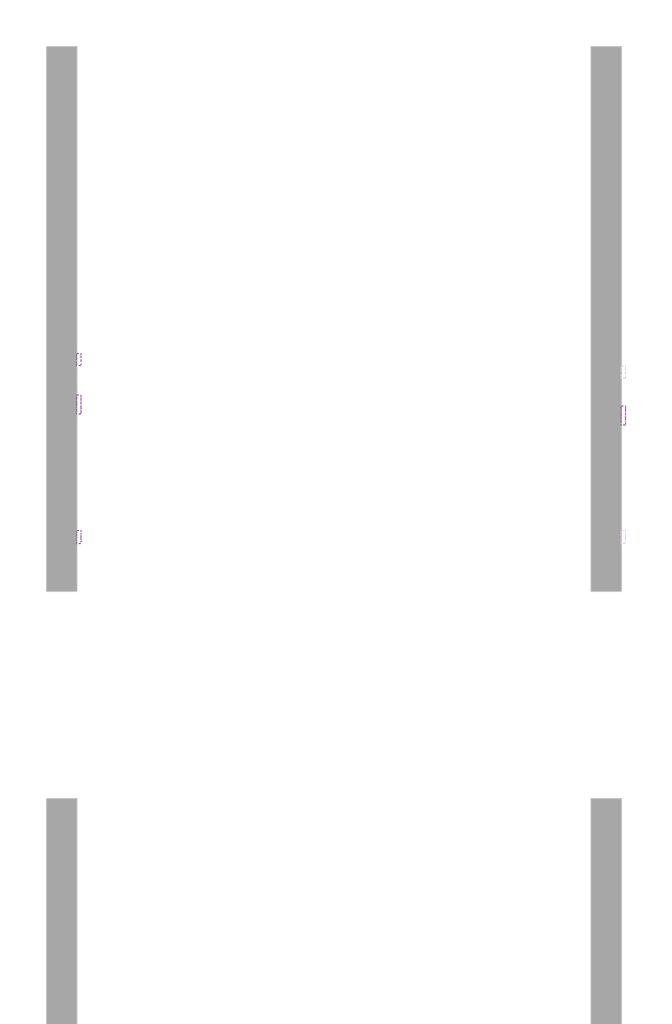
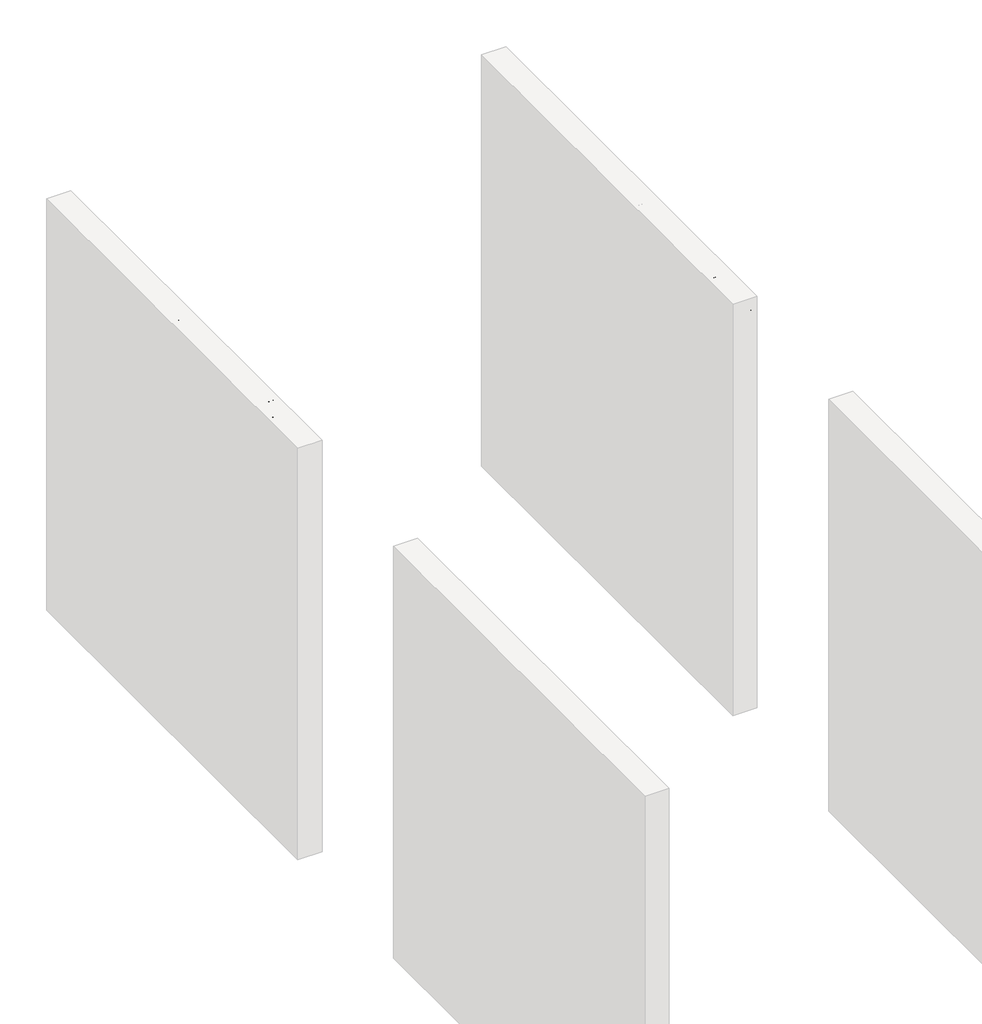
# One storey, part 12 of 17: 4 proxies.
"""IFC4 building model written with IfcOpenShell, lengths in millimetres."""

import ifcopenshell
import ifcopenshell.guid

model = None  # the IFC model being written
_history = None  # IfcOwnerHistory: only IFC2X3 demands one
_inside = {}  # id of a spatial element -> (the spatial element, [elements in it])
_under = {}  # id of a project, library or spatial element -> (it, [spatial elements below it])
_declared = {}  # id of a project -> (the project, [libraries it declares])
_typed = {}  # id of a type object -> (the type object, [elements of that type])
_made_of = {}  # id of a material, layer set ... -> (it, [elements and type objects made of it])


def new_model(schema):
    """Start an empty IFC model of exactly this schema.

    Asked for "IFC4X3", IfcOpenShell would pick the latest addendum, in which some entities
    have other attributes; the version numbers below select the first issue.
    IFC2X3 requires an IfcOwnerHistory on every rooted entity: one is made here for all.
    """
    global model, _history
    if schema == "IFC4X3":
        model = ifcopenshell.file(schema_version=(4, 3, 0, 0))
    else:
        model = ifcopenshell.file(schema=schema)
    _inside.clear()
    _under.clear()
    _declared.clear()
    _typed.clear()
    _made_of.clear()
    _history = None
    if model.schema == "IFC2X3":
        org = make("IfcOrganization", Name="unknown")
        user = make(
            "IfcPersonAndOrganization",
            ThePerson=make("IfcPerson", FamilyName="unknown"),
            TheOrganization=org,
        )
        app = make(
            "IfcApplication",
            ApplicationDeveloper=org,
            Version="unknown",
            ApplicationFullName="unknown",
            ApplicationIdentifier="unknown",
        )
        _history = make(
            "IfcOwnerHistory",
            OwningUser=user,
            OwningApplication=app,
            ChangeAction="ADDED",
            CreationDate=0,
        )
    return model


def make(cls, **values):
    """One entity of the class cls with the attributes given. An attribute that is None is left unset."""
    return model.create_entity(
        cls, **{name: value for name, value in values.items() if value is not None}
    )


def rooted(cls, **values):
    """An entity with a GlobalId (a new one), such as an element, a storey or a relation."""
    return make(cls, GlobalId=ifcopenshell.guid.new(), OwnerHistory=_history, **values)


def si_unit(unit_type, name, prefix=None):
    """IfcSIUnit, for example si_unit("LENGTHUNIT", "METRE", prefix="MILLI")."""
    return make("IfcSIUnit", UnitType=unit_type, Prefix=prefix, Name=name)


def assignment(units):
    """IfcUnitAssignment: the units of a project."""
    return None if units is None else make("IfcUnitAssignment", Units=units)


def point(xyz):
    """IfcCartesianPoint."""
    return None if xyz is None else make("IfcCartesianPoint", Coordinates=xyz)


def direction(xyz):
    """IfcDirection."""
    return None if xyz is None else make("IfcDirection", DirectionRatios=xyz)


def frame(location, z_axis=None, x_axis=None):
    """IfcAxis2Placement3D, a coordinate frame: its origin and axes. An axis left out is left unset."""
    return make(
        "IfcAxis2Placement3D",
        Location=point(location),
        Axis=direction(z_axis),
        RefDirection=direction(x_axis),
    )


def origin():
    """The frame at (0, 0, 0) with its axes left unset."""
    return frame((0.0, 0.0, 0.0))


def place(relative_to, where):
    """IfcLocalPlacement: puts the frame where relative to a parent placement (None: the world)."""
    return make(
        "IfcLocalPlacement", PlacementRelTo=relative_to, RelativePlacement=where
    )


def context(
    kind, dimensions, precision=None, world=None, true_north=None, identifier=None
):
    """IfcGeometricRepresentationContext, for example the 3D "Model" context."""
    return make(
        "IfcGeometricRepresentationContext",
        ContextIdentifier=identifier,
        ContextType=kind,
        CoordinateSpaceDimension=dimensions,
        Precision=precision,
        WorldCoordinateSystem=world,
        TrueNorth=true_north,
    )


def project(units=None, contexts=None):
    """IfcProject with its units and contexts."""
    return rooted(
        "IfcProject",
        Name="project",
        RepresentationContexts=contexts,
        UnitsInContext=assignment(units),
    )


def spatial(cls, under=None, at=None, **own):
    """A site, building, storey or space (cls), placed at a placement, below another one or the project."""
    s = rooted(cls, ObjectPlacement=at, **own)
    if under is not None:
        _under.setdefault(under.id(), (under, []))[1].append(s)
    return s


def polyline(points):
    """IfcPolyline through the points."""
    return make("IfcPolyline", Points=[point(p) for p in points])


def outline(outer, holes=None, kind="AREA"):
    """IfcArbitraryClosedProfileDef: a profile drawn as a closed curve; with holes, ...WithVoids."""
    if holes is None:
        return make("IfcArbitraryClosedProfileDef", ProfileType=kind, OuterCurve=outer)
    return make(
        "IfcArbitraryProfileDefWithVoids",
        ProfileType=kind,
        OuterCurve=outer,
        InnerCurves=holes,
    )


def extrude(swept, where, along, depth):
    """IfcExtrudedAreaSolid: the profile swept, set in the frame where, extruded along a direction by depth."""
    return make(
        "IfcExtrudedAreaSolid",
        SweptArea=swept,
        Position=where,
        ExtrudedDirection=direction(along),
        Depth=depth,
    )


def shape(context_of_items, identifier, shape_type, items):
    """IfcShapeRepresentation: the items that make up one representation, for example the "Body"."""
    return make(
        "IfcShapeRepresentation",
        ContextOfItems=context_of_items,
        RepresentationIdentifier=identifier,
        RepresentationType=shape_type,
        Items=items,
    )


def made_of(thing, what):
    """Note that an element or type object is made of a material, layer set ...; save() writes the relation."""
    if what is not None:
        _made_of.setdefault(what.id(), (what, []))[1].append(thing)
    return thing


def element(
    cls,
    number,
    at=None,
    inside=None,
    cuts=None,
    type_object=None,
    material=None,
    context=None,
    identifier="Body",
    shape_type=None,
    held_by="IfcProductDefinitionShape",
    body=None,
    shapes=None,
    **own,
):
    """One element of the class cls, such as IfcWall. Its Tag is "e" and its number.

    at: its placement. inside: the storey or other place that contains it. cuts: it is an
    opening in that element (IfcRelVoidsElement). A single representation is given by context,
    identifier, shape_type and body (its items); several are given by shapes. held_by: the class
    of the entity that holds the representations. save() writes the other relations.
    """
    e = rooted(cls, Tag="e%d" % number, ObjectPlacement=at, **own)
    if body is not None:
        shapes = [shape(context, identifier, shape_type, body)]
    if shapes is not None:
        e.Representation = make(held_by, Representations=shapes)
    if inside is not None:
        _inside.setdefault(inside.id(), (inside, []))[1].append(e)
    if cuts is not None:
        rooted(
            "IfcRelVoidsElement", RelatingBuildingElement=cuts, RelatedOpeningElement=e
        )
    if type_object is not None:
        _typed.setdefault(type_object.id(), (type_object, []))[1].append(e)
    return made_of(e, material)


def aggregate(whole, parts):
    """IfcRelAggregates: a whole, such as a stair, and the parts it consists of."""
    return rooted("IfcRelAggregates", RelatingObject=whole, RelatedObjects=parts)


def save(model, path):
    """Write the relations noted so far, then the file.

    IfcRelAggregates (storeys below a building ...), IfcRelContainedInSpatialStructure (elements
    in a storey), IfcRelDefinesByType, IfcRelAssociatesMaterial and IfcRelDeclares: one each for
    every whole, place, type object, material and project.
    """
    for whole, parts in _under.values():
        aggregate(whole, parts)
    for where, things in _inside.values():
        rooted(
            "IfcRelContainedInSpatialStructure",
            RelatedElements=things,
            RelatingStructure=where,
        )
    for kind, things in _typed.values():
        rooted("IfcRelDefinesByType", RelatedObjects=things, RelatingType=kind)
    for what, things in _made_of.values():
        rooted("IfcRelAssociatesMaterial", RelatedObjects=things, RelatingMaterial=what)
    for by, libraries in _declared.values():
        rooted("IfcRelDeclares", RelatingContext=by, RelatedDefinitions=libraries)
    model.write(path)


model = new_model("IFC4")

# Units and contexts
model_context = context("Model", 3, world=origin())
ifc_project = project(units=[si_unit("LENGTHUNIT", "METRE", prefix="MILLI")], contexts=[model_context])

# Site, building, storey
site = spatial("IfcSite", under=ifc_project)
building = spatial("IfcBuilding", under=site)
storey = spatial("IfcBuildingStorey", under=building, Name="PORTOBELLO - SHOWROOM", Elevation=0.0)

# Proxies
placement = place(None, origin())
element("IfcBuildingElementProxy", 1, Name="10mm Arial", ObjectType="10mm Arial", at=placement, inside=storey, context=model_context, shape_type="SweptSolid", body=[
    extrude(outline(polyline([(-13002.2794626, 9434.1996011), (-13002.2794626, 9421.6425623), (-13022.2794626, 9421.6425623), (-13022.2794626, 9434.1996011), (-13002.2794626, 9434.1996011)])), frame((0.0, 0.0, 2518.4745677), z_axis=(0.0, 0.0, 1.0), x_axis=(1.0, 0.0, 0.0)), (0.0, 0.0, 1.0), 100.4563101),
    extrude(outline(polyline([(9457.7440488, 2518.4745677), (9457.7440488, 2592.2471704), (9470.3010876, 2592.2471704), (9470.3010876, 2581.9464746), (9479.9028076, 2590.8492188), (9493.0116694, 2593.8168003), (9504.8697324, 2591.4255673), (9512.9631363, 2585.1470479), (9516.7277953, 2575.9132098), (9517.3899829, 2563.773104), (9517.3899829, 2518.4745677), (9504.8329442, 2518.4745677), (9504.8329442, 2562.0808468), (9503.3859417, 2573.1908831), (9498.2723819, 2579.0647323), (9489.6516805, 2581.2597615), (9476.027784, 2576.3301428), (9471.7327617, 2569.1871007), (9470.3010876, 2557.6172119), (9470.3010876, 2518.4745677), (9457.7440488, 2518.4745677)])), frame((-13022.2794626, 0.0, 0.0), z_axis=(1.0, 0.0, 0.0), x_axis=(0.0, 1.0, 0.0)), (0.0, 0.0, 1.0), 20.0),
    extrude(outline(polyline([(9580.1751768, 2518.4745677), (9580.1751768, 2530.3203679), (9571.8671751, 2520.2587953), (9560.3831254, 2516.9049378), (9544.8339798, 2521.7609802), (9533.8465709, 2535.3113003), (9529.9470217, 2555.2872926), (9533.5400025, 2575.2755477), (9544.3066823, 2589.0343343), (9560.3340745, 2593.8168003), (9571.9100946, 2590.3954977), (9580.1751768, 2581.5050162), (9580.1751768, 2618.9308778), (9592.7322156, 2618.9308778), (9592.7322156, 2518.4745677), (9580.1751768, 2518.4745677)]), holes=[polyline([(9542.5040605, 2555.3363436), (9543.9204062, 2543.977987), (9548.1694432, 2535.8999115), (9554.3437294, 2531.0714603), (9561.5358224, 2529.4619766), (9568.7248497, 2530.9978839), (9574.742786, 2535.6056059), (9578.8170791, 2543.3709817), (9580.1751768, 2554.3798504), (9578.7925536, 2566.415723), (9574.6446841, 2574.7605129), (9568.4734637, 2579.6349494), (9561.0207876, 2581.2597615), (9553.7551182, 2579.6993287), (9547.8015612, 2575.0180303), (9543.8284357, 2566.976743), (9542.5040605, 2555.3363436)])]), frame((-13022.2794626, 0.0, 0.0), z_axis=(1.0, 0.0, 0.0), x_axis=(0.0, 1.0, 0.0)), (0.0, 0.0, 1.0), 20.0),
    extrude(outline(polyline([(-13002.2794626, 9624.1248125), (-13002.2794626, 9611.5677737), (-13022.2794626, 9611.5677737), (-13022.2794626, 9624.1248125), (-13002.2794626, 9624.1248125)])), frame((0.0, 0.0, 2606.373839), z_axis=(0.0, 0.0, 1.0), x_axis=(1.0, 0.0, 0.0)), (0.0, 0.0, 1.0), 12.5570388),
    extrude(outline(polyline([(-13002.2794626, 9624.1248125), (-13002.2794626, 9611.5677737), (-13022.2794626, 9611.5677737), (-13022.2794626, 9624.1248125), (-13002.2794626, 9624.1248125)])), frame((0.0, 0.0, 2518.4745677), z_axis=(0.0, 0.0, 1.0), x_axis=(1.0, 0.0, 0.0)), (0.0, 0.0, 1.0), 73.7726028),
    extrude(outline(polyline([(9639.8211109, 2512.1960483), (9652.3781497, 2510.6264184), (9656.4493771, 2504.0045425), (9668.6385339, 2501.2086394), (9681.4898783, 2504.3724245), (9687.6212448, 2513.2506433), (9688.4796362, 2527.8923467), (9679.6382055, 2520.8290124), (9668.8592631, 2518.4745677), (9655.9128825, 2521.2152885), (9646.2590459, 2529.4374511), (9640.2533723, 2541.4917178), (9638.2514811, 2555.728751), (9641.8444619, 2575.1897086), (9652.2432596, 2588.9607579), (9668.2461264, 2593.8168003), (9679.4481332, 2591.069948), (9688.4796362, 2582.8293914), (9688.4796362, 2592.2471704), (9701.0366749, 2592.2471704), (9701.0366749, 2528.5545343), (9697.6031096, 2504.1639581), (9686.7260653, 2492.8209299), (9668.3932792, 2488.6516006), (9656.7099602, 2490.1200629), (9647.5098446, 2494.5254498), (9641.6084043, 2501.880024), (9639.8211109, 2512.1960483)]), holes=[polyline([(9650.8085199, 2556.5871424), (9652.1482235, 2545.0693702), (9656.1673343, 2537.1507103), (9662.209796, 2532.5613824), (9669.6195525, 2531.0316064), (9676.9741268, 2532.5521853), (9683.0472454, 2537.1139221), (9687.1215385, 2544.9314145), (9688.4796362, 2556.2192604), (9687.0816846, 2567.1055017), (9682.8878298, 2574.9444539), (9676.7258064, 2579.6809346), (9669.4233488, 2581.2597615), (9662.2527156, 2579.7054601), (9656.2409107, 2575.0425558), (9652.1666176, 2567.3200996), (9650.8085199, 2556.5871424)])]), frame((-13022.2794626, 0.0, 0.0), z_axis=(1.0, 0.0, 0.0), x_axis=(0.0, 1.0, 0.0)), (0.0, 0.0, 1.0), 20.0),
    extrude(outline(polyline([(9716.7329734, 2555.360869), (9719.4491688, 2573.1479635), (9727.597755, 2585.64982), (9737.6654589, 2591.7750552), (9749.7197256, 2593.8168003), (9762.9113608, 2591.3305311), (9773.4481143, 2583.8717237), (9780.3550988, 2572.0289891), (9782.6574269, 2556.3909386), (9778.5861995, 2534.0482388), (9766.7281365, 2521.4053609), (9749.7197256, 2516.9049378), (9736.3686749, 2519.3820099), (9725.8441841, 2526.8132262), (9719.0107761, 2538.9042811), (9716.7329734, 2555.360869)]), holes=[polyline([(9729.2900122, 2555.3853945), (9730.743146, 2544.0209065), (9735.1025477, 2535.924437), (9741.6631099, 2531.0775917), (9749.7197256, 2529.4619766), (9757.7395531, 2531.0867887), (9764.2878526, 2535.9612252), (9768.6472543, 2544.1649937), (9770.1003882, 2555.777802), (9768.6380572, 2566.8111961), (9764.2510644, 2574.7973011), (9757.6935679, 2579.6441464), (9749.7197256, 2581.2597615), (9741.6631099, 2579.6502778), (9735.1025477, 2574.8218266), (9730.743146, 2566.7437511), (9729.2900122, 2555.3853945)])]), frame((-13022.2794626, 0.0, 0.0), z_axis=(1.0, 0.0, 0.0), x_axis=(0.0, 1.0, 0.0)), (0.0, 0.0, 1.0), 20.0),
    extrude(outline(polyline([(9832.885582, 2553.0064243), (9845.4426208, 2553.0064243), (9849.4893227, 2540.4371228), (9859.3730857, 2532.4908717), (9874.431722, 2529.4619766), (9887.5528465, 2531.7551077), (9896.0263951, 2538.0581525), (9898.8100355, 2546.4826502), (9896.7253709, 2554.3185367), (9888.1905086, 2560.0207077), (9869.9067735, 2564.8154363), (9850.2250867, 2571.0081166), (9839.5442461, 2580.3523193), (9836.0248417, 2592.8357816), (9840.378112, 2607.0482894), (9853.0945663, 2617.0792051), (9871.7093952, 2620.5005077), (9891.575023, 2616.9197896), (9904.8187748, 2606.3983645), (9909.7974445, 2590.6775406), (9897.2404057, 2590.6775406), (9894.9350119, 2598.1700706), (9890.1280205, 2603.5779359), (9872.1999046, 2607.9434689), (9854.2227377, 2603.6269868), (9848.5818805, 2593.2036636), (9852.5795315, 2584.4971231), (9873.0828213, 2577.4828397), (9895.3028939, 2571.1797948), (9907.4552624, 2561.0017263), (9911.3670743, 2546.8014813), (9906.8666512, 2531.7796332), (9893.917205, 2520.8167497), (9874.9222313, 2516.9049378), (9852.4936923, 2521.123318), (9838.3057101, 2533.8275096), (9832.885582, 2553.0064243)])), frame((-13022.2794626, 0.0, 0.0), z_axis=(1.0, 0.0, 0.0), x_axis=(0.0, 1.0, 0.0)), (0.0, 0.0, 1.0), 20.0),
    extrude(outline(polyline([(9975.721898, 2518.4745677), (9975.721898, 2531.1542338), (9965.887186, 2520.4672618), (9953.0603671, 2516.9049378), (9941.2513551, 2519.4065354), (9933.1089002, 2525.6850548), (9929.3687666, 2534.9311556), (9928.6330026, 2546.6052776), (9928.6330026, 2592.2471704), (9941.1900414, 2592.2471704), (9941.1900414, 2552.515915), (9941.9503308, 2539.7136215), (9946.9167378, 2532.1965661), (9956.2732032, 2529.4619766), (9966.75784, 2532.2578797), (9973.6862843, 2539.873037), (9975.721898, 2553.8648156), (9975.721898, 2592.2471704), (9988.2789368, 2592.2471704), (9988.2789368, 2518.4745677), (9975.721898, 2518.4745677)])), frame((-13022.2794626, 0.0, 0.0), z_axis=(1.0, 0.0, 0.0), x_axis=(0.0, 1.0, 0.0)), (0.0, 0.0, 1.0), 20.0),
    extrude(outline(polyline([(10005.5448651, 2490.2212304), (10005.5448651, 2592.2471704), (10018.1019038, 2592.2471704), (10018.1019038, 2579.9353863), (10026.7839189, 2590.3464468), (10038.5070918, 2593.8168003), (10054.4241195, 2588.9607579), (10064.8229172, 2575.2755477), (10068.3300589, 2555.9249548), (10064.3691961, 2535.5810804), (10052.8667524, 2521.724192), (10036.9865129, 2516.9049378), (10026.0604177, 2520.1300366), (10018.1019038, 2528.2847542), (10018.1019038, 2490.2212304), (10005.5448651, 2490.2212304)]), holes=[polyline([(10018.1019038, 2554.7722579), (10019.4600015, 2543.5150688), (10023.5342946, 2535.6423941), (10029.5460996, 2531.007081), (10036.7167328, 2529.4619766), (10044.003862, 2531.0622633), (10050.1689511, 2535.8631233), (10054.3720029, 2544.0239722), (10055.7730201, 2555.7042256), (10054.4057254, 2566.900101), (10050.3038412, 2574.8831403), (10044.3012333, 2579.6656062), (10037.2317676, 2581.2597615), (10030.1347108, 2579.5644386), (10023.9021766, 2574.4784701), (10019.551972, 2566.1612713), (10018.1019038, 2554.7722579)])]), frame((-13022.2794626, 0.0, 0.0), z_axis=(1.0, 0.0, 0.0), x_axis=(0.0, 1.0, 0.0)), (0.0, 0.0, 1.0), 20.0),
    extrude(outline(polyline([(10082.4567275, 2518.4745677), (10082.4567275, 2592.2471704), (10093.4441365, 2592.2471704), (10093.4441365, 2581.3333379), (10101.2432348, 2591.3887791), (10109.091384, 2593.8168003), (10121.6974737, 2589.9417766), (10117.5036189, 2578.6845875), (10108.6744511, 2581.2597615), (10101.5743285, 2578.7826894), (10097.04938, 2571.9155588), (10095.0137663, 2557.24933), (10095.0137663, 2518.4745677), (10082.4567275, 2518.4745677)])), frame((-13022.2794626, 0.0, 0.0), z_axis=(1.0, 0.0, 0.0), x_axis=(0.0, 1.0, 0.0)), (0.0, 0.0, 1.0), 20.0),
    extrude(outline(polyline([(10181.196255, 2540.4493855), (10193.5080391, 2538.8797557), (10189.0719954, 2529.602998), (10181.9933327, 2522.6684224), (10172.4314665, 2518.345809), (10160.5458124, 2516.9049378), (10145.8121385, 2519.391207), (10134.4752417, 2526.8500144), (10127.2463604, 2538.7969822), (10124.8367334, 2554.7477324), (10127.2708859, 2571.2349771), (10134.5733435, 2583.5651553), (10145.7569562, 2591.253889), (10159.8345739, 2593.8168003), (10173.4737988, 2591.2600204), (10184.3723029, 2583.5896808), (10191.5184107, 2571.2840281), (10193.9004466, 2554.8213088), (10193.8268702, 2551.4367944), (10137.3937721, 2551.4367944), (10139.5673416, 2542.0374095), (10144.616522, 2535.1273593), (10151.9036512, 2530.8783223), (10160.791067, 2529.4619766), (10173.1028511, 2532.0862015), (10181.196255, 2540.4493855)]), holes=[polyline([(10137.3937721, 2563.9938332), (10181.3434078, 2563.9938332), (10176.3156872, 2575.3736496), (10168.9948355, 2579.7882335), (10159.7855229, 2581.2597615), (10144.3222164, 2576.5631347), (10139.456977, 2571.0724959), (10137.3937721, 2563.9938332)])]), frame((-13022.2794626, 0.0, 0.0), z_axis=(1.0, 0.0, 0.0), x_axis=(0.0, 1.0, 0.0)), (0.0, 0.0, 1.0), 20.0),
    extrude(outline(polyline([(10206.4574854, 2518.4745677), (10206.4574854, 2592.2471704), (10219.0145241, 2592.2471704), (10219.0145241, 2580.1070646), (10227.6474883, 2590.0521412), (10239.9347469, 2593.8168003), (10252.5163112, 2589.9785648), (10259.4324927, 2579.2241478), (10269.2304165, 2590.1686372), (10281.6035143, 2593.8168003), (10291.0427531, 2592.299287), (10298.023314, 2587.7467474), (10302.3367304, 2580.0365539), (10303.7745358, 2569.0460793), (10303.7745358, 2518.4745677), (10291.2174971, 2518.4745677), (10291.2174971, 2563.6504767), (10290.0525374, 2574.1351135), (10285.8341572, 2579.2977242), (10278.6604583, 2581.2597615), (10266.311886, 2576.2320409), (10262.623869, 2569.6898728), (10261.39453, 2560.1188095), (10261.39453, 2518.4745677), (10248.8374912, 2518.4745677), (10248.8374912, 2565.0484283), (10245.9312235, 2577.2130596), (10236.4030798, 2581.2597615), (10227.107928, 2578.5619602), (10220.9275105, 2570.66476), (10219.0145241, 2555.6797001), (10219.0145241, 2518.4745677), (10206.4574854, 2518.4745677)])), frame((-13022.2794626, 0.0, 0.0), z_axis=(1.0, 0.0, 0.0), x_axis=(0.0, 1.0, 0.0)), (0.0, 0.0, 1.0), 20.0),
    extrude(outline(polyline([(10374.2607261, 2540.4493855), (10386.5725102, 2538.8797557), (10382.1364665, 2529.602998), (10375.0578038, 2522.6684224), (10365.4959376, 2518.345809), (10353.6102834, 2516.9049378), (10338.8766095, 2519.391207), (10327.5397127, 2526.8500144), (10320.3108315, 2538.7969822), (10317.9012044, 2554.7477324), (10320.335357, 2571.2349771), (10327.6378146, 2583.5651553), (10338.8214272, 2591.253889), (10352.8990449, 2593.8168003), (10366.5382699, 2591.2600204), (10377.436774, 2583.5896808), (10384.5828818, 2571.2840281), (10386.9649177, 2554.8213088), (10386.8913413, 2551.4367944), (10330.4582432, 2551.4367944), (10332.6318127, 2542.0374095), (10337.6809931, 2535.1273593), (10344.9681222, 2530.8783223), (10353.8555381, 2529.4619766), (10366.1673222, 2532.0862015), (10374.2607261, 2540.4493855)]), holes=[polyline([(10330.4582432, 2563.9938332), (10374.4078789, 2563.9938332), (10369.3801583, 2575.3736496), (10362.0593066, 2579.7882335), (10352.849994, 2581.2597615), (10337.3866875, 2576.5631347), (10332.5214481, 2571.0724959), (10330.4582432, 2563.9938332)])]), frame((-13022.2794626, 0.0, 0.0), z_axis=(1.0, 0.0, 0.0), x_axis=(0.0, 1.0, 0.0)), (0.0, 0.0, 1.0), 20.0),
])
element("IfcBuildingElementProxy", 2, Name="10mm Arial", ObjectType="10mm Arial", at=placement, inside=storey, context=model_context, shape_type="SweptSolid", body=[
    extrude(outline(polyline([(9415.3640429, 2553.0064243), (9427.9210817, 2553.0064243), (9431.9677837, 2540.4371228), (9441.8515466, 2532.4908717), (9456.9101829, 2529.4619766), (9470.0313074, 2531.7551077), (9478.5048561, 2538.0581525), (9481.2884965, 2546.4826502), (9479.2038318, 2554.3185367), (9470.6689696, 2560.0207077), (9452.3852344, 2564.8154363), (9432.7035477, 2571.0081166), (9422.0227071, 2580.3523193), (9418.5033026, 2592.8357816), (9422.8565729, 2607.0482894), (9435.5730272, 2617.0792051), (9454.1878562, 2620.5005077), (9474.0534839, 2616.9197896), (9487.2972357, 2606.3983645), (9492.2759054, 2590.6775406), (9479.7188666, 2590.6775406), (9477.4134728, 2598.1700706), (9472.6064814, 2603.5779359), (9454.6783655, 2607.9434689), (9436.7011987, 2603.6269868), (9431.0603414, 2593.2036636), (9435.0579924, 2584.4971231), (9455.5612823, 2577.4828397), (9477.7813548, 2571.1797948), (9489.9337234, 2561.0017263), (9493.8455352, 2546.8014813), (9489.3451122, 2531.7796332), (9476.3956659, 2520.8167497), (9457.4006923, 2516.9049378), (9434.9721533, 2521.123318), (9420.784171, 2533.8275096), (9415.3640429, 2553.0064243)])), frame((-10322.2794626, 0.0, 0.0), z_axis=(1.0, 0.0, 0.0), x_axis=(0.0, 1.0, 0.0)), (0.0, 0.0, 1.0), 20.0),
    extrude(outline(polyline([(9558.2003589, 2527.8923467), (9546.0234649, 2519.3820099), (9532.5712466, 2516.9049378), (9522.0774127, 2518.3948599), (9514.3365624, 2522.8646261), (9509.5632935, 2529.6520489), (9507.9722039, 2538.0949407), (9510.3756996, 2548.0277546), (9516.6910072, 2555.2382417), (9525.4833868, 2559.3585201), (9536.3481684, 2561.246981), (9558.1267825, 2565.563463), (9558.2003589, 2568.3593662), (9554.7422682, 2577.6299925), (9540.8608542, 2581.2597615), (9528.1566627, 2578.8440031), (9522.0988725, 2570.2723526), (9509.5418337, 2571.8419824), (9514.9742245, 2584.1047156), (9525.9125825, 2591.2906772), (9542.479535, 2593.8168003), (9557.6975869, 2591.5849828), (9566.2937628, 2585.9809138), (9570.144261, 2577.4583142), (9570.7573977, 2566.4709053), (9570.7573977, 2550.8481832), (9571.3950598, 2529.0327809), (9573.8966574, 2518.4745677), (9561.3396186, 2518.4745677), (9558.2003589, 2527.8923467)]), holes=[polyline([(9558.2003589, 2553.0064243), (9537.9423237, 2549.1559261), (9527.1388558, 2547.1203124), (9522.2460253, 2543.8093744), (9520.5292426, 2538.9778575), (9524.2693763, 2532.1843033), (9535.2445224, 2529.4619766), (9547.948714, 2532.4663462), (9556.1402198, 2539.738147), (9558.1267825, 2549.4502317), (9558.2003589, 2553.0064243)])]), frame((-10322.2794626, 0.0, 0.0), z_axis=(1.0, 0.0, 0.0), x_axis=(0.0, 1.0, 0.0)), (0.0, 0.0, 1.0), 20.0),
    extrude(outline(polyline([(9584.8840663, 2512.1960483), (9597.4411051, 2510.6264184), (9601.5123325, 2504.0045425), (9613.7014893, 2501.2086394), (9626.5528336, 2504.3724245), (9632.6842002, 2513.2506433), (9633.5425916, 2527.8923467), (9624.7011609, 2520.8290124), (9613.9222185, 2518.4745677), (9600.9758379, 2521.2152885), (9591.3220012, 2529.4374511), (9585.3163277, 2541.4917178), (9583.3144365, 2555.728751), (9586.9074173, 2575.1897086), (9597.306215, 2588.9607579), (9613.3090818, 2593.8168003), (9624.5110886, 2591.069948), (9633.5425916, 2582.8293914), (9633.5425916, 2592.2471704), (9646.0996303, 2592.2471704), (9646.0996303, 2528.5545343), (9642.666065, 2504.1639581), (9631.7890207, 2492.8209299), (9613.4562346, 2488.6516006), (9601.7729156, 2490.1200629), (9592.5728, 2494.5254498), (9586.6713597, 2501.880024), (9584.8840663, 2512.1960483)]), holes=[polyline([(9595.8714752, 2556.5871424), (9597.2111788, 2545.0693702), (9601.2302896, 2537.1507103), (9607.2727514, 2532.5613824), (9614.6825079, 2531.0316064), (9622.0370822, 2532.5521853), (9628.1102008, 2537.1139221), (9632.1844939, 2544.9314145), (9633.5425916, 2556.2192604), (9632.14464, 2567.1055017), (9627.9507852, 2574.9444539), (9621.7887618, 2579.6809346), (9614.4863042, 2581.2597615), (9607.315671, 2579.7054601), (9601.303866, 2575.0425558), (9597.2295729, 2567.3200996), (9595.8714752, 2556.5871424)])]), frame((-10322.2794626, 0.0, 0.0), z_axis=(1.0, 0.0, 0.0), x_axis=(0.0, 1.0, 0.0)), (0.0, 0.0, 1.0), 20.0),
    extrude(outline(polyline([(9716.5858206, 2540.4493855), (9728.8976047, 2538.8797557), (9724.461561, 2529.602998), (9717.3828983, 2522.6684224), (9707.8210321, 2518.345809), (9695.9353779, 2516.9049378), (9681.201704, 2519.391207), (9669.8648072, 2526.8500144), (9662.635926, 2538.7969822), (9660.2262989, 2554.7477324), (9662.6604515, 2571.2349771), (9669.9629091, 2583.5651553), (9681.1465217, 2591.253889), (9695.2241394, 2593.8168003), (9708.8633644, 2591.2600204), (9719.7618685, 2583.5896808), (9726.9079762, 2571.2840281), (9729.2900122, 2554.8213088), (9729.2164358, 2551.4367944), (9672.7833377, 2551.4367944), (9674.9569072, 2542.0374095), (9680.0060875, 2535.1273593), (9687.2932167, 2530.8783223), (9696.1806326, 2529.4619766), (9708.4924167, 2532.0862015), (9716.5858206, 2540.4493855)]), holes=[polyline([(9672.7833377, 2563.9938332), (9716.7329734, 2563.9938332), (9711.7052528, 2575.3736496), (9704.3844011, 2579.7882335), (9695.1750885, 2581.2597615), (9679.7117819, 2576.5631347), (9674.8465426, 2571.0724959), (9672.7833377, 2563.9938332)])]), frame((-10322.2794626, 0.0, 0.0), z_axis=(1.0, 0.0, 0.0), x_axis=(0.0, 1.0, 0.0)), (0.0, 0.0, 1.0), 20.0),
    extrude(outline(polyline([(9777.9485374, 2553.0064243), (9790.5055762, 2553.0064243), (9794.5522781, 2540.4371228), (9804.436041, 2532.4908717), (9819.4946774, 2529.4619766), (9832.6158019, 2531.7551077), (9841.0893505, 2538.0581525), (9843.8729909, 2546.4826502), (9841.7883263, 2554.3185367), (9833.253464, 2560.0207077), (9814.9697288, 2564.8154363), (9795.2880421, 2571.0081166), (9784.6072015, 2580.3523193), (9781.0877971, 2592.8357816), (9785.4410674, 2607.0482894), (9798.1575217, 2617.0792051), (9816.7723506, 2620.5005077), (9836.6379784, 2616.9197896), (9849.8817302, 2606.3983645), (9854.8603999, 2590.6775406), (9842.3033611, 2590.6775406), (9839.9979672, 2598.1700706), (9835.1909758, 2603.5779359), (9817.2628599, 2607.9434689), (9799.2856931, 2603.6269868), (9793.6448359, 2593.2036636), (9797.6424869, 2584.4971231), (9818.1457767, 2577.4828397), (9840.3658492, 2571.1797948), (9852.5182178, 2561.0017263), (9856.4300297, 2546.8014813), (9851.9296066, 2531.7796332), (9838.9801604, 2520.8167497), (9819.9851867, 2516.9049378), (9797.5566477, 2521.123318), (9783.3686655, 2533.8275096), (9777.9485374, 2553.0064243)])), frame((-10322.2794626, 0.0, 0.0), z_axis=(1.0, 0.0, 0.0), x_axis=(0.0, 1.0, 0.0)), (0.0, 0.0, 1.0), 20.0),
    extrude(outline(polyline([(9920.7848534, 2518.4745677), (9920.7848534, 2531.1542338), (9910.9501414, 2520.4672618), (9898.1233225, 2516.9049378), (9886.3143104, 2519.4065354), (9878.1718556, 2525.6850548), (9874.431722, 2534.9311556), (9873.695958, 2546.6052776), (9873.695958, 2592.2471704), (9886.2529968, 2592.2471704), (9886.2529968, 2552.515915), (9887.0132862, 2539.7136215), (9891.9796932, 2532.1965661), (9901.3361586, 2529.4619766), (9911.8207954, 2532.2578797), (9918.7492397, 2539.873037), (9920.7848534, 2553.8648156), (9920.7848534, 2592.2471704), (9933.3418922, 2592.2471704), (9933.3418922, 2518.4745677), (9920.7848534, 2518.4745677)])), frame((-10322.2794626, 0.0, 0.0), z_axis=(1.0, 0.0, 0.0), x_axis=(0.0, 1.0, 0.0)), (0.0, 0.0, 1.0), 20.0),
    extrude(outline(polyline([(9950.6078205, 2490.2212304), (9950.6078205, 2592.2471704), (9963.1648592, 2592.2471704), (9963.1648592, 2579.9353863), (9971.8468743, 2590.3464468), (9983.5700472, 2593.8168003), (9999.4870749, 2588.9607579), (10009.8858726, 2575.2755477), (10013.3930143, 2555.9249548), (10009.4321515, 2535.5810804), (9997.9297078, 2521.724192), (9982.0494683, 2516.9049378), (9971.1233731, 2520.1300366), (9963.1648592, 2528.2847542), (9963.1648592, 2490.2212304), (9950.6078205, 2490.2212304)]), holes=[polyline([(9963.1648592, 2554.7722579), (9964.5229569, 2543.5150688), (9968.59725, 2535.6423941), (9974.609055, 2531.007081), (9981.7796882, 2529.4619766), (9989.0668174, 2531.0622633), (9995.2319065, 2535.8631233), (9999.4349583, 2544.0239722), (10000.8359755, 2555.7042256), (9999.4686808, 2566.900101), (9995.3667965, 2574.8831403), (9989.3641887, 2579.6656062), (9982.294723, 2581.2597615), (9975.1976662, 2579.5644386), (9968.965132, 2574.4784701), (9964.6149274, 2566.1612713), (9963.1648592, 2554.7722579)])]), frame((-10322.2794626, 0.0, 0.0), z_axis=(1.0, 0.0, 0.0), x_axis=(0.0, 1.0, 0.0)), (0.0, 0.0, 1.0), 20.0),
    extrude(outline(polyline([(10027.5196829, 2518.4745677), (10027.5196829, 2592.2471704), (10038.5070918, 2592.2471704), (10038.5070918, 2581.3333379), (10046.3061901, 2591.3887791), (10054.1543394, 2593.8168003), (10066.7604291, 2589.9417766), (10062.5665743, 2578.6845875), (10053.7374064, 2581.2597615), (10046.6372839, 2578.7826894), (10042.1123354, 2571.9155588), (10040.0767217, 2557.24933), (10040.0767217, 2518.4745677), (10027.5196829, 2518.4745677)])), frame((-10322.2794626, 0.0, 0.0), z_axis=(1.0, 0.0, 0.0), x_axis=(0.0, 1.0, 0.0)), (0.0, 0.0, 1.0), 20.0),
    extrude(outline(polyline([(10126.2592104, 2540.4493855), (10138.5709945, 2538.8797557), (10134.1349508, 2529.602998), (10127.0562881, 2522.6684224), (10117.4944219, 2518.345809), (10105.6087678, 2516.9049378), (10090.8750939, 2519.391207), (10079.538197, 2526.8500144), (10072.3093158, 2538.7969822), (10069.8996888, 2554.7477324), (10072.3338413, 2571.2349771), (10079.6362989, 2583.5651553), (10090.8199116, 2591.253889), (10104.8975292, 2593.8168003), (10118.5367542, 2591.2600204), (10129.4352583, 2583.5896808), (10136.5813661, 2571.2840281), (10138.963402, 2554.8213088), (10138.8898256, 2551.4367944), (10082.4567275, 2551.4367944), (10084.630297, 2542.0374095), (10089.6794774, 2535.1273593), (10096.9666066, 2530.8783223), (10105.8540224, 2529.4619766), (10118.1658065, 2532.0862015), (10126.2592104, 2540.4493855)]), holes=[polyline([(10082.4567275, 2563.9938332), (10126.4063632, 2563.9938332), (10121.3786426, 2575.3736496), (10114.0577909, 2579.7882335), (10104.8484783, 2581.2597615), (10089.3851718, 2576.5631347), (10084.5199324, 2571.0724959), (10082.4567275, 2563.9938332)])]), frame((-10322.2794626, 0.0, 0.0), z_axis=(1.0, 0.0, 0.0), x_axis=(0.0, 1.0, 0.0)), (0.0, 0.0, 1.0), 20.0),
    extrude(outline(polyline([(10151.5204408, 2518.4745677), (10151.5204408, 2592.2471704), (10164.0774795, 2592.2471704), (10164.0774795, 2580.1070646), (10172.7104437, 2590.0521412), (10184.9977023, 2593.8168003), (10197.5792666, 2589.9785648), (10204.4954481, 2579.2241478), (10214.2933719, 2590.1686372), (10226.6664696, 2593.8168003), (10236.1057085, 2592.299287), (10243.0862694, 2587.7467474), (10247.3996858, 2580.0365539), (10248.8374912, 2569.0460793), (10248.8374912, 2518.4745677), (10236.2804524, 2518.4745677), (10236.2804524, 2563.6504767), (10235.1154928, 2574.1351135), (10230.8971126, 2579.2977242), (10223.7234137, 2581.2597615), (10211.3748414, 2576.2320409), (10207.6868244, 2569.6898728), (10206.4574854, 2560.1188095), (10206.4574854, 2518.4745677), (10193.9004466, 2518.4745677), (10193.9004466, 2565.0484283), (10190.9941788, 2577.2130596), (10181.4660352, 2581.2597615), (10172.1708834, 2578.5619602), (10165.9904659, 2570.66476), (10164.0774795, 2555.6797001), (10164.0774795, 2518.4745677), (10151.5204408, 2518.4745677)])), frame((-10322.2794626, 0.0, 0.0), z_axis=(1.0, 0.0, 0.0), x_axis=(0.0, 1.0, 0.0)), (0.0, 0.0, 1.0), 20.0),
    extrude(outline(polyline([(10319.3236815, 2540.4493855), (10331.6354656, 2538.8797557), (10327.1994219, 2529.602998), (10320.1207592, 2522.6684224), (10310.558893, 2518.345809), (10298.6732388, 2516.9049378), (10283.9395649, 2519.391207), (10272.6026681, 2526.8500144), (10265.3737869, 2538.7969822), (10262.9641598, 2554.7477324), (10265.3983124, 2571.2349771), (10272.70077, 2583.5651553), (10283.8843826, 2591.253889), (10297.9620003, 2593.8168003), (10311.6012253, 2591.2600204), (10322.4997294, 2583.5896808), (10329.6458371, 2571.2840281), (10332.0278731, 2554.8213088), (10331.9542967, 2551.4367944), (10275.5211986, 2551.4367944), (10277.6947681, 2542.0374095), (10282.7439484, 2535.1273593), (10290.0310776, 2530.8783223), (10298.9184935, 2529.4619766), (10311.2302776, 2532.0862015), (10319.3236815, 2540.4493855)]), holes=[polyline([(10275.5211986, 2563.9938332), (10319.4708343, 2563.9938332), (10314.4431137, 2575.3736496), (10307.122262, 2579.7882335), (10297.9129494, 2581.2597615), (10282.4496428, 2576.5631347), (10277.5844035, 2571.0724959), (10275.5211986, 2563.9938332)])]), frame((-10322.2794626, 0.0, 0.0), z_axis=(1.0, 0.0, 0.0), x_axis=(0.0, 1.0, 0.0)), (0.0, 0.0, 1.0), 20.0),
])
element("IfcBuildingElementProxy", 3, Name="10mm Arial", ObjectType="10mm Arial", at=placement, inside=storey, context=model_context, shape_type="SweptSolid", body=[
    extrude(outline(polyline([(9462.4529383, 2393.4745677), (9449.8958996, 2393.4745677), (9449.8958996, 2471.7598562), (9438.0010484, 2463.2863076), (9424.781822, 2456.9464746), (9424.781822, 2468.8168003), (9443.1881845, 2480.5644987), (9454.3595344, 2493.9308778), (9462.4529383, 2493.9308778), (9462.4529383, 2393.4745677)])), frame((-13022.2794626, 0.0, 0.0), z_axis=(1.0, 0.0, 0.0), x_axis=(0.0, 1.0, 0.0)), (0.0, 0.0, 1.0), 20.0),
    extrude(outline(polyline([(9492.2759054, 2442.8933823), (9495.9669881, 2471.7966444), (9506.9298715, 2488.4616988), (9525.2381322, 2493.9308778), (9539.904361, 2490.6935163), (9550.0333786, 2481.3615763), (9555.9194906, 2466.4991437), (9558.2003589, 2442.8933823), (9554.5460645, 2414.1127476), (9543.6199692, 2397.410905), (9535.3886096, 2393.2814296), (9525.2381322, 2391.9049378), (9512.1905841, 2394.2961708), (9502.2822957, 2401.4698697), (9494.777503, 2418.4598865), (9492.2759054, 2442.8933823)]), holes=[polyline([(9504.8329442, 2442.9179078), (9506.3044722, 2423.1657104), (9510.7190561, 2411.7337774), (9517.2918811, 2406.2799268), (9525.2381322, 2404.4619766), (9533.1843833, 2406.2860581), (9539.7572082, 2411.7583028), (9544.1717922, 2423.1963672), (9545.6433202, 2442.9179078), (9544.2208431, 2462.2255812), (9539.953412, 2473.746419), (9533.3928497, 2479.466984), (9525.0909794, 2481.373839), (9517.2305674, 2479.6938446), (9510.9152598, 2474.6538613), (9506.3535231, 2462.4156536), (9504.8329442, 2442.9179078)])]), frame((-13022.2794626, 0.0, 0.0), z_axis=(1.0, 0.0, 0.0), x_axis=(0.0, 1.0, 0.0)), (0.0, 0.0, 1.0), 20.0),
    extrude(outline(polyline([(9564.4788783, 2393.4745677), (9591.3097385, 2430.5815982), (9566.0485082, 2467.2471704), (9581.1071445, 2467.2471704), (9593.2963013, 2449.5643092), (9599.0107349, 2441.2501761), (9603.9648791, 2448.0682557), (9617.8462931, 2467.2471704), (9632.9539804, 2467.2471704), (9606.4174258, 2430.5570728), (9631.9729617, 2393.4745677), (9616.8897999, 2393.4745677), (9601.487807, 2415.792742), (9598.6919039, 2419.8884949), (9579.5865656, 2393.4745677), (9564.4788783, 2393.4745677)])), frame((-13022.2794626, 0.0, 0.0), z_axis=(1.0, 0.0, 0.0), x_axis=(0.0, 1.0, 0.0)), (0.0, 0.0, 1.0), 20.0),
    extrude(outline(polyline([(9704.1759346, 2406.0316064), (9704.1759346, 2393.4745677), (9638.2514811, 2393.4745677), (9639.6003817, 2402.1320573), (9647.2400645, 2415.4616482), (9662.9731512, 2430.0175125), (9684.6414007, 2450.9377353), (9690.049266, 2465.1625058), (9684.9357063, 2476.6772122), (9671.5815899, 2481.373839), (9657.6633877, 2476.7875768), (9652.3781497, 2464.1079107), (9639.8211109, 2465.6775406), (9642.8653344, 2477.8237778), (9649.4473565, 2486.6958652), (9659.2238205, 2492.1221247), (9671.85137, 2493.9308778), (9684.57089, 2491.9197896), (9694.3289599, 2485.8865249), (9700.5369686, 2476.873416), (9702.6063048, 2465.9227952), (9700.3744873, 2454.0156813), (9692.9555338, 2441.7038972), (9674.9661042, 2424.4992826), (9660.5206045, 2412.4204904), (9654.8552218, 2406.0316064), (9704.1759346, 2406.0316064)])), frame((-13022.2794626, 0.0, 0.0), z_axis=(1.0, 0.0, 0.0), x_axis=(0.0, 1.0, 0.0)), (0.0, 0.0, 1.0), 20.0),
    extrude(outline(polyline([(9716.7329734, 2442.8933823), (9720.4240561, 2471.7966444), (9731.3869395, 2488.4616988), (9749.6952002, 2493.9308778), (9764.361429, 2490.6935163), (9774.4904466, 2481.3615763), (9780.3765586, 2466.4991437), (9782.6574269, 2442.8933823), (9779.0031324, 2414.1127476), (9768.0770372, 2397.410905), (9759.8456775, 2393.2814296), (9749.6952002, 2391.9049378), (9736.6476521, 2394.2961708), (9726.7393637, 2401.4698697), (9719.234571, 2418.4598865), (9716.7329734, 2442.8933823)]), holes=[polyline([(9729.2900122, 2442.9179078), (9730.7615401, 2423.1657104), (9735.1761241, 2411.7337774), (9741.7489491, 2406.2799268), (9749.6952002, 2404.4619766), (9757.6414513, 2406.2860581), (9764.2142762, 2411.7583028), (9768.6288602, 2423.1963672), (9770.1003882, 2442.9179078), (9768.6779111, 2462.2255812), (9764.41048, 2473.746419), (9757.8499177, 2479.466984), (9749.5480474, 2481.373839), (9741.6876354, 2479.6938446), (9735.3723278, 2474.6538613), (9730.8105911, 2462.4156536), (9729.2900122, 2442.9179078)])]), frame((-13022.2794626, 0.0, 0.0), z_axis=(1.0, 0.0, 0.0), x_axis=(0.0, 1.0, 0.0)), (0.0, 0.0, 1.0), 20.0),
])
element("IfcBuildingElementProxy", 4, Name="10mm Arial Narrow", ObjectType="10mm Arial Narrow", at=placement, inside=storey, context=model_context, shape_type="SweptSolid", body=[
    extrude(outline(polyline([(10447.2528462, 2518.4745677), (10447.2528462, 2619.1931714), (10478.5497308, 2619.1931714), (10494.8454323, 2617.3148507), (10506.3184185, 2607.8344075), (10510.6080969, 2590.8152987), (10508.8217885, 2578.7394731), (10503.4628633, 2569.1130794), (10493.7190745, 2562.811821), (10478.7781752, 2560.7114015), (10456.9998078, 2560.7114015), (10456.9998078, 2518.4745677), (10447.2528462, 2518.4745677)]), holes=[polyline([(10456.9998078, 2572.0828568), (10479.9711627, 2572.0828568), (10495.8353581, 2576.613671), (10500.8611352, 2590.2822617), (10498.3863208, 2600.4480381), (10492.4086919, 2606.247988), (10479.7427183, 2607.8217162), (10456.9998078, 2607.8217162), (10456.9998078, 2572.0828568)])]), frame((-13022.2794626, 0.0, 0.0), z_axis=(1.0, 0.0, 0.0), x_axis=(0.0, 1.0, 0.0)), (0.0, 0.0, 1.0), 20.0),
    extrude(outline(polyline([(10518.7305649, 2555.0256739), (10520.6850338, 2571.6164494), (10526.5484404, 2583.5685342), (10535.4070071, 2590.7930888), (10546.3469563, 2593.2012737), (10557.1599919, 2590.7930888), (10566.0439413, 2583.5685342), (10571.9834961, 2571.8068198), (10573.9633476, 2555.7871552), (10572.0183973, 2538.6252687), (10566.1835462, 2526.4828135), (10557.334498, 2519.2582589), (10546.3469563, 2516.8500741), (10535.4863281, 2519.2646046), (10526.6118972, 2526.5081962), (10520.700898, 2538.4666267), (10518.7305649, 2555.0256739)]), holes=[polyline([(10528.4775266, 2555.0510566), (10529.7815635, 2542.4993052), (10533.693674, 2533.6280471), (10539.5348708, 2528.3547886), (10546.6261661, 2526.5970357), (10553.3462393, 2528.3706528), (10559.0383126, 2533.6915039), (10562.9218676, 2542.5786262), (10564.216386, 2555.0510566), (10562.9123491, 2567.5647339), (10559.0002385, 2576.4233006), (10553.1590418, 2581.6965592), (10546.0677465, 2583.454312), (10539.3000807, 2581.6870407), (10533.6175259, 2576.3852265), (10529.7625264, 2567.5171413), (10528.4775266, 2555.0510566)])]), frame((-13022.2794626, 0.0, 0.0), z_axis=(1.0, 0.0, 0.0), x_axis=(0.0, 1.0, 0.0)), (0.0, 0.0, 1.0), 20.0),
    extrude(outline(polyline([(10645.4410664, 2526.5970357), (10647.06556, 2516.8500741), (10639.7045734, 2516.8500741), (10631.4298091, 2518.9695306), (10627.1147479, 2524.7694804), (10625.9471431, 2539.4153056), (10625.9471431, 2581.8298184), (10617.8246751, 2581.8298184), (10617.8246751, 2585.0788056), (10616.2001815, 2580.2053248), (10608.6361331, 2581.8298184), (10602.5569734, 2579.5073002), (10598.6861098, 2573.0220171), (10596.7062582, 2557.6147106), (10596.7062582, 2518.4745677), (10586.9592965, 2518.4745677), (10586.9592965, 2591.5767801), (10596.7062582, 2591.5767801), (10596.7062582, 2581.8805838), (10602.9504055, 2590.967595), (10609.3468491, 2593.2012737), (10617.8246751, 2591.5767801), (10625.9471431, 2591.5767801), (10625.9471431, 2607.8217162), (10635.6941048, 2615.9441842), (10635.6941048, 2591.5767801), (10645.4410664, 2591.5767801), (10645.4410664, 2581.8298184), (10635.6941048, 2581.8298184), (10635.6941048, 2537.1816269), (10636.557117, 2529.1860724), (10641.1767707, 2526.5970357), (10645.4410664, 2526.5970357)])), frame((-13022.2794626, 0.0, 0.0), z_axis=(1.0, 0.0, 0.0), x_axis=(0.0, 1.0, 0.0)), (0.0, 0.0, 1.0), 20.0),
    extrude(outline(polyline([(10651.9390409, 2555.0256739), (10653.8935097, 2571.6164494), (10659.7569164, 2583.5685342), (10668.6154831, 2590.7930888), (10679.5554322, 2593.2012737), (10690.3684678, 2590.7930888), (10699.2524172, 2583.5685342), (10705.191972, 2571.8068198), (10707.1718236, 2555.7871552), (10705.2268732, 2538.6252687), (10699.3920222, 2526.4828135), (10690.542974, 2519.2582589), (10679.5554322, 2516.8500741), (10668.6948041, 2519.2646046), (10659.8203731, 2526.5081962), (10653.9093739, 2538.4666267), (10651.9390409, 2555.0256739)]), holes=[polyline([(10661.6860025, 2555.0510566), (10662.9900394, 2542.4993052), (10666.90215, 2533.6280471), (10672.7433467, 2528.3547886), (10679.8346421, 2526.5970357), (10686.5547152, 2528.3706528), (10692.2467885, 2533.6915039), (10696.1303436, 2542.5786262), (10697.4248619, 2555.0510566), (10696.1208251, 2567.5647339), (10692.2087145, 2576.4233006), (10686.3675177, 2581.6965592), (10679.2762224, 2583.454312), (10672.5085566, 2581.6870407), (10666.8260018, 2576.3852265), (10662.9710024, 2567.5171413), (10661.6860025, 2555.0510566)])]), frame((-13022.2794626, 0.0, 0.0), z_axis=(1.0, 0.0, 0.0), x_axis=(0.0, 1.0, 0.0)), (0.0, 0.0, 1.0), 20.0),
    extrude(outline(polyline([(10729.9147341, 2518.4745677), (10720.1677724, 2518.4745677), (10720.1677724, 2619.1931714), (10729.9147341, 2619.1931714), (10729.9147341, 2583.7842873), (10737.3137948, 2590.8660641), (10746.5150282, 2593.2012737), (10759.3967548, 2589.0004347), (10768.6741363, 2576.2710043), (10772.1515679, 2555.5840935), (10770.2193089, 2539.1297501), (10764.4225319, 2526.927011), (10756.0494096, 2519.3693083), (10746.3881146, 2516.8500741), (10737.0472764, 2519.4644935), (10729.9147341, 2527.2316035), (10729.9147341, 2518.4745677)]), holes=[polyline([(10729.9147341, 2555.5840935), (10731.9961165, 2538.3365403), (10737.8849059, 2529.6048872), (10746.3373492, 2526.5970357), (10752.2800768, 2528.3865169), (10757.5184341, 2533.7549607), (10762.4046063, 2555.1779701), (10757.6961131, 2576.613671), (10752.4514101, 2581.7441518), (10746.1342875, 2583.454312), (10740.1566587, 2581.6648308), (10734.8643631, 2576.2963871), (10729.9147341, 2555.5840935)])]), frame((-13022.2794626, 0.0, 0.0), z_axis=(1.0, 0.0, 0.0), x_axis=(0.0, 1.0, 0.0)), (0.0, 0.0, 1.0), 20.0),
    extrude(outline(polyline([(10824.1353634, 2541.2174782), (10833.8823251, 2539.5929846), (10830.1827947, 2529.706418), (10824.3638078, 2522.5865671), (10816.6601545, 2518.2841973), (10807.3066249, 2516.8500741), (10795.7130709, 2519.2646046), (10786.5689487, 2526.5081962), (10780.629394, 2538.3143304), (10778.6495424, 2554.4164888), (10780.6389125, 2571.0834124), (10786.6070228, 2583.2639417), (10795.6210586, 2590.7169407), (10806.7482053, 2593.2012737), (10817.4311544, 2590.8026073), (10826.1786718, 2583.6066083), (10832.0135229, 2571.8671037), (10833.9584732, 2555.8379207), (10833.8823251, 2552.5889335), (10788.396504, 2552.5889335), (10794.3995156, 2533.1457756), (10800.3295518, 2528.2342207), (10807.4335385, 2526.5970357), (10817.6120063, 2530.2521463), (10824.1353634, 2541.2174782)]), holes=[polyline([(10789.0564546, 2562.3358951), (10824.1353634, 2562.3358951), (10819.8710677, 2576.6009796), (10814.0457351, 2581.7409789), (10806.8243534, 2583.454312), (10794.6152686, 2577.7432017), (10789.0564546, 2562.3358951)])]), frame((-13022.2794626, 0.0, 0.0), z_axis=(1.0, 0.0, 0.0), x_axis=(0.0, 1.0, 0.0)), (0.0, 0.0, 1.0), 20.0),
    extrude(outline(polyline([(-13002.2794626, 10856.6252356), (-13002.2794626, 10846.8782739), (-13022.2794626, 10846.8782739), (-13022.2794626, 10856.6252356), (-13002.2794626, 10856.6252356)])), frame((0.0, 0.0, 2518.4745677), z_axis=(0.0, 0.0, 1.0), x_axis=(1.0, 0.0, 0.0)), (0.0, 0.0, 1.0), 100.7186038),
    extrude(outline(polyline([(-13002.2794626, 10882.6171333), (-13002.2794626, 10872.8701717), (-13022.2794626, 10872.8701717), (-13022.2794626, 10882.6171333), (-13002.2794626, 10882.6171333)])), frame((0.0, 0.0, 2518.4745677), z_axis=(0.0, 0.0, 1.0), x_axis=(1.0, 0.0, 0.0)), (0.0, 0.0, 1.0), 100.7186038),
    extrude(outline(polyline([(10893.9885886, 2555.0256739), (10895.9430575, 2571.6164494), (10901.8064641, 2583.5685342), (10910.6650308, 2590.7930888), (10921.60498, 2593.2012737), (10932.4180155, 2590.7930888), (10941.301965, 2583.5685342), (10947.2415197, 2571.8068198), (10949.2213713, 2555.7871552), (10947.276421, 2538.6252687), (10941.4415699, 2526.4828135), (10932.5925217, 2519.2582589), (10921.60498, 2516.8500741), (10910.7443518, 2519.2646046), (10901.8699209, 2526.5081962), (10895.9589217, 2538.4666267), (10893.9885886, 2555.0256739)]), holes=[polyline([(10903.7355503, 2555.0510566), (10905.0395871, 2542.4993052), (10908.9516977, 2533.6280471), (10914.7928944, 2528.3547886), (10921.8841898, 2526.5970357), (10928.604263, 2528.3706528), (10934.2963363, 2533.6915039), (10938.1798913, 2542.5786262), (10939.4744097, 2555.0510566), (10938.1703728, 2567.5647339), (10934.2582622, 2576.4233006), (10928.4170655, 2581.6965592), (10921.3257701, 2583.454312), (10914.5581044, 2581.6870407), (10908.8755496, 2576.3852265), (10905.0205501, 2567.5171413), (10903.7355503, 2555.0510566)])]), frame((-13022.2794626, 0.0, 0.0), z_axis=(1.0, 0.0, 0.0), x_axis=(0.0, 1.0, 0.0)), (0.0, 0.0, 1.0), 20.0),
])

save(model, "model.ifc")
